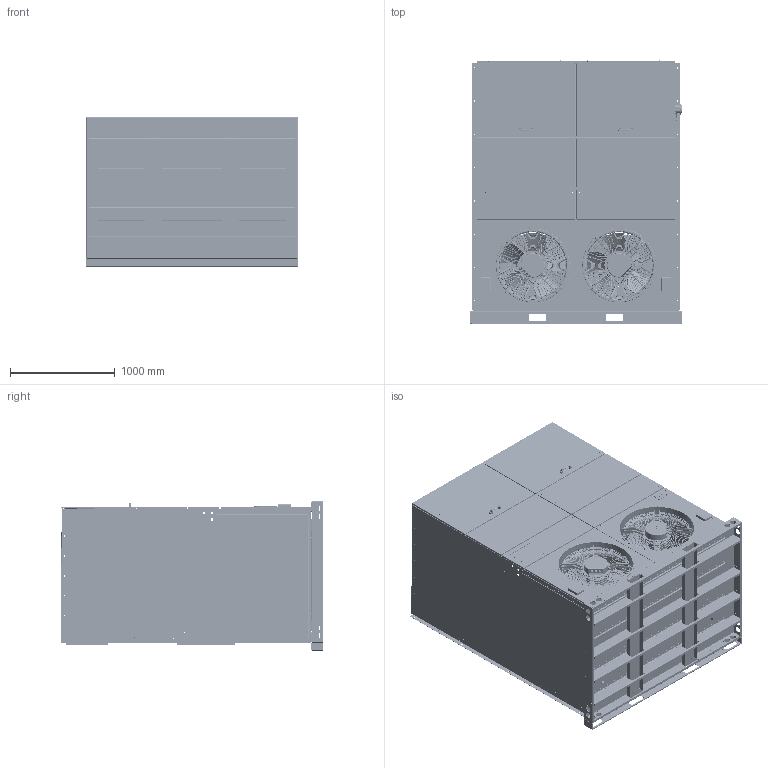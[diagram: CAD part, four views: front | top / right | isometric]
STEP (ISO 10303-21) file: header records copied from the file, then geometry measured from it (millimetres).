
FILE_DESCRIPTION (( 'STEP AP214' ), '1' );
FILE_NAME ('STEP_2900.STEP', '2022-11-28T19:27:08', ( '' ), ( '' ), 'SwSTEP 2.0', 'SolidWorks 2022', '' );
FILE_SCHEMA (( 'AUTOMOTIVE_DESIGN' ));
Length unit declared in the file: millimetre
Products named in the file (1): STEP_2900
Bounding box: 2019.43 x 2508.15 x 1422.4 mm (x, y, z)
Surface area: 59658065 mm2 (no closed solid volume)
Topology: 0 solids, 112 shells, 13019 faces, 36853 edges, 23478 vertices
Faces by surface type: plane 5811, cylinder 4841, bspline 1601, cone 514, torus 212, sphere 40
Entity records: 579413 total; most frequent: CARTESIAN_POINT 244509, ORIENTED_EDGE 73422, DIRECTION 63141, EDGE_CURVE 36723, VERTEX_POINT 23478, AXIS2_PLACEMENT_3D 22652, VECTOR 17837, LINE 17837
